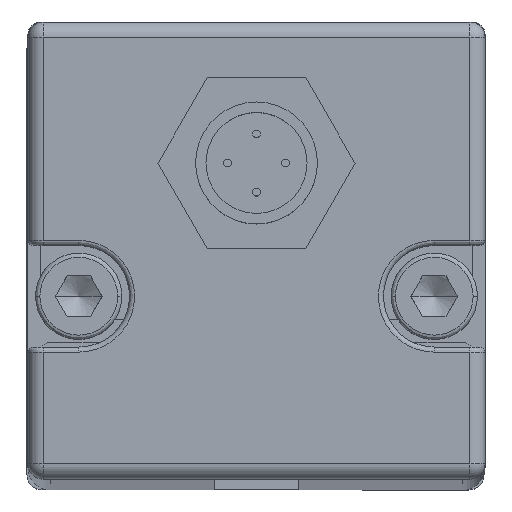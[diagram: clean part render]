
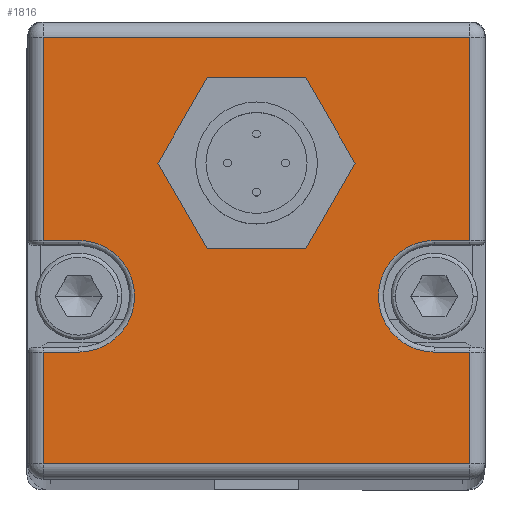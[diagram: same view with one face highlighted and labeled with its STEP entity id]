
A CAD part, top view. The second image highlights one B-rep face of the part: STEP entity #1816.
In plain terms, the highlighted planar face has unit normal (0, 0, 1) as drawn and (0, 1, 0) by its records, which use the part's own axes.
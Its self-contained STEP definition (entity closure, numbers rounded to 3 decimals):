
#12 = EDGE_LOOP ( 'NONE', ( #2973, #2975, #2976, #2977, #2978, #2979, #2980, #2981, #2982, #2983, #2984, #2985 ) ) ;
#157 = EDGE_LOOP ( 'NONE', ( #2974, #2963 ) ) ;
#345 = AXIS2_PLACEMENT_3D ( 'NONE', #9519, #9450, #9539 ) ;
#934 = EDGE_CURVE ( 'NONE', #7361, #7482, #5489, .T. ) ;
#1636 = FACE_OUTER_BOUND ( 'NONE', #12, .T. ) ;
#1655 = FACE_BOUND ( 'NONE', #157, .T. ) ;
#1816 = ADVANCED_FACE ( 'NONE', ( #1655, #1636 ), #2345, .T. ) ;
#2122 = AXIS2_PLACEMENT_3D ( 'NONE', #2524, #2356, #2358 ) ;
#2345 = PLANE ( 'NONE',  #2122 ) ;
#2356 = DIRECTION ( 'NONE',  ( 0., 1., 0. ) ) ;
#2358 = DIRECTION ( 'NONE',  ( 0., 0., 1. ) ) ;
#2524 = CARTESIAN_POINT ( 'NONE',  ( 22.5, 7., 22.5 ) ) ;
#2963 = ORIENTED_EDGE ( 'NONE', *, *, #934, .F. ) ;
#2973 = ORIENTED_EDGE ( 'NONE', *, *, #8046, .T. ) ;
#2974 = ORIENTED_EDGE ( 'NONE', *, *, #8017, .F. ) ;
#2975 = ORIENTED_EDGE ( 'NONE', *, *, #8075, .T. ) ;
#2976 = ORIENTED_EDGE ( 'NONE', *, *, #8080, .T. ) ;
#2977 = ORIENTED_EDGE ( 'NONE', *, *, #8073, .T. ) ;
#2978 = ORIENTED_EDGE ( 'NONE', *, *, #8088, .T. ) ;
#2979 = ORIENTED_EDGE ( 'NONE', *, *, #8043, .T. ) ;
#2980 = ORIENTED_EDGE ( 'NONE', *, *, #8059, .T. ) ;
#2981 = ORIENTED_EDGE ( 'NONE', *, *, #8056, .T. ) ;
#2982 = ORIENTED_EDGE ( 'NONE', *, *, #8070, .T. ) ;
#2983 = ORIENTED_EDGE ( 'NONE', *, *, #8072, .T. ) ;
#2984 = ORIENTED_EDGE ( 'NONE', *, *, #8050, .T. ) ;
#2985 = ORIENTED_EDGE ( 'NONE', *, *, #8069, .T. ) ;
#4005 = CARTESIAN_POINT ( 'NONE',  ( 0., 7., -15.1 ) ) ;
#4018 = CARTESIAN_POINT ( 'NONE',  ( -17.5, 7., -1. ) ) ;
#4055 = CARTESIAN_POINT ( 'NONE',  ( -21., 7., -1. ) ) ;
#4085 = CARTESIAN_POINT ( 'NONE',  ( 0., 7., -2.1 ) ) ;
#4091 = CARTESIAN_POINT ( 'NONE',  ( 17.5, 7., -1. ) ) ;
#4118 = CARTESIAN_POINT ( 'NONE',  ( -21., 7., 21. ) ) ;
#4134 = CARTESIAN_POINT ( 'NONE',  ( -21., 7., 10. ) ) ;
#4145 = CARTESIAN_POINT ( 'NONE',  ( 21., 7., -1. ) ) ;
#4325 = CARTESIAN_POINT ( 'NONE',  ( 21., 7., -21. ) ) ;
#4330 = CARTESIAN_POINT ( 'NONE',  ( 21., 7., 21. ) ) ;
#4350 = CARTESIAN_POINT ( 'NONE',  ( -21., 7., -21. ) ) ;
#4353 = CARTESIAN_POINT ( 'NONE',  ( -17.5, 7., 10. ) ) ;
#4358 = CARTESIAN_POINT ( 'NONE',  ( 17.5, 7., 10. ) ) ;
#4363 = CARTESIAN_POINT ( 'NONE',  ( 21., 7., 10. ) ) ;
#4370 = CARTESIAN_POINT ( 'NONE',  ( 0., 7., -8.6 ) ) ;
#4371 = DIRECTION ( 'NONE',  ( 0., 1., 0. ) ) ;
#4372 = DIRECTION ( 'NONE',  ( 0., 0., 1. ) ) ;
#4414 = CARTESIAN_POINT ( 'NONE',  ( 22.5, 7., -21. ) ) ;
#4432 = DIRECTION ( 'NONE',  ( -1., 0., 0. ) ) ;
#4438 = CARTESIAN_POINT ( 'NONE',  ( 21., 7., 9.5 ) ) ;
#4439 = DIRECTION ( 'NONE',  ( 0., 0., -1. ) ) ;
#4440 = CARTESIAN_POINT ( 'NONE',  ( 22.5, 7., -1. ) ) ;
#4447 = CARTESIAN_POINT ( 'NONE',  ( -21., 7., 22.5 ) ) ;
#4448 = DIRECTION ( 'NONE',  ( 0., 0., 1. ) ) ;
#4460 = DIRECTION ( 'NONE',  ( 1., 0., 0. ) ) ;
#4465 = CARTESIAN_POINT ( 'NONE',  ( -21., 7., 22.5 ) ) ;
#4466 = DIRECTION ( 'NONE',  ( 0., 0., 1. ) ) ;
#4482 = CARTESIAN_POINT ( 'NONE',  ( -17.5, 7., 4.5 ) ) ;
#4488 = CARTESIAN_POINT ( 'NONE',  ( 22.5, 7., 21. ) ) ;
#4489 = DIRECTION ( 'NONE',  ( 1., 0., 0. ) ) ;
#4491 = DIRECTION ( 'NONE',  ( 0., -1., 0. ) ) ;
#4492 = DIRECTION ( 'NONE',  ( 0., 0., 1. ) ) ;
#4495 = CARTESIAN_POINT ( 'NONE',  ( 22.5, 7., 10. ) ) ;
#4496 = DIRECTION ( 'NONE',  ( -1., 0., 0. ) ) ;
#4497 = CARTESIAN_POINT ( 'NONE',  ( 22.5, 7., -1. ) ) ;
#4498 = DIRECTION ( 'NONE',  ( 1., 0., 0. ) ) ;
#4502 = CARTESIAN_POINT ( 'NONE',  ( 22.5, 7., 10. ) ) ;
#4503 = DIRECTION ( 'NONE',  ( -1., 0., 0. ) ) ;
#4508 = CARTESIAN_POINT ( 'NONE',  ( 17.5, 7., 4.5 ) ) ;
#4515 = DIRECTION ( 'NONE',  ( 0., -1., 0. ) ) ;
#4516 = DIRECTION ( 'NONE',  ( 0., 0., 1. ) ) ;
#4534 = CARTESIAN_POINT ( 'NONE',  ( 21., 7., -22.5 ) ) ;
#4535 = DIRECTION ( 'NONE',  ( 0., 0., -1. ) ) ;
#5489 = CIRCLE ( 'NONE', #345, 6.5 ) ;
#5687 = AXIS2_PLACEMENT_3D ( 'NONE', #4370, #4371, #4372 ) ;
#5693 = AXIS2_PLACEMENT_3D ( 'NONE', #4482, #4491, #4492 ) ;
#5696 = AXIS2_PLACEMENT_3D ( 'NONE', #4508, #4515, #4516 ) ;
#5894 = CIRCLE ( 'NONE', #5687, 6.5 ) ;
#5930 = LINE ( 'NONE', #4414, #5934 ) ;
#5934 = VECTOR ( 'NONE', #4432, 1000. ) ;
#5935 = VECTOR ( 'NONE', #4439, 1000. ) ;
#5937 = LINE ( 'NONE', #4438, #5935 ) ;
#5948 = LINE ( 'NONE', #4447, #5949 ) ;
#5949 = VECTOR ( 'NONE', #4448, 1000. ) ;
#5952 = LINE ( 'NONE', #4440, #5958 ) ;
#5958 = VECTOR ( 'NONE', #4460, 1000. ) ;
#5959 = LINE ( 'NONE', #4502, #5985 ) ;
#5964 = LINE ( 'NONE', #4465, #5965 ) ;
#5965 = VECTOR ( 'NONE', #4466, 1000. ) ;
#5980 = LINE ( 'NONE', #4488, #5981 ) ;
#5981 = VECTOR ( 'NONE', #4489, 1000. ) ;
#5985 = VECTOR ( 'NONE', #4503, 1000. ) ;
#5986 = CIRCLE ( 'NONE', #5693, 5.5 ) ;
#5987 = LINE ( 'NONE', #4495, #5988 ) ;
#5988 = VECTOR ( 'NONE', #4496, 1000. ) ;
#5989 = LINE ( 'NONE', #4497, #5990 ) ;
#5990 = VECTOR ( 'NONE', #4498, 1000. ) ;
#6002 = CIRCLE ( 'NONE', #5696, 5.5 ) ;
#6012 = LINE ( 'NONE', #4534, #6013 ) ;
#6013 = VECTOR ( 'NONE', #4535, 1000. ) ;
#7361 = VERTEX_POINT ( 'NONE', #4005 ) ;
#7380 = VERTEX_POINT ( 'NONE', #4018 ) ;
#7434 = VERTEX_POINT ( 'NONE', #4055 ) ;
#7482 = VERTEX_POINT ( 'NONE', #4085 ) ;
#7489 = VERTEX_POINT ( 'NONE', #4091 ) ;
#7527 = VERTEX_POINT ( 'NONE', #4118 ) ;
#7545 = VERTEX_POINT ( 'NONE', #4134 ) ;
#7570 = VERTEX_POINT ( 'NONE', #4145 ) ;
#7874 = VERTEX_POINT ( 'NONE', #4325 ) ;
#7879 = VERTEX_POINT ( 'NONE', #4330 ) ;
#7899 = VERTEX_POINT ( 'NONE', #4350 ) ;
#7902 = VERTEX_POINT ( 'NONE', #4353 ) ;
#7907 = VERTEX_POINT ( 'NONE', #4358 ) ;
#7917 = VERTEX_POINT ( 'NONE', #4363 ) ;
#8017 = EDGE_CURVE ( 'NONE', #7482, #7361, #5894, .T. ) ;
#8043 = EDGE_CURVE ( 'NONE', #7874, #7899, #5930, .T. ) ;
#8046 = EDGE_CURVE ( 'NONE', #7879, #7917, #5937, .T. ) ;
#8050 = EDGE_CURVE ( 'NONE', #7545, #7527, #5948, .T. ) ;
#8056 = EDGE_CURVE ( 'NONE', #7434, #7380, #5952, .T. ) ;
#8059 = EDGE_CURVE ( 'NONE', #7899, #7434, #5964, .T. ) ;
#8069 = EDGE_CURVE ( 'NONE', #7527, #7879, #5980, .T. ) ;
#8070 = EDGE_CURVE ( 'NONE', #7380, #7902, #5986, .T. ) ;
#8072 = EDGE_CURVE ( 'NONE', #7902, #7545, #5987, .T. ) ;
#8073 = EDGE_CURVE ( 'NONE', #7489, #7570, #5989, .T. ) ;
#8075 = EDGE_CURVE ( 'NONE', #7917, #7907, #5959, .T. ) ;
#8080 = EDGE_CURVE ( 'NONE', #7907, #7489, #6002, .T. ) ;
#8088 = EDGE_CURVE ( 'NONE', #7570, #7874, #6012, .T. ) ;
#9450 = DIRECTION ( 'NONE',  ( 0., 1., 0. ) ) ;
#9519 = CARTESIAN_POINT ( 'NONE',  ( 0., 7., -8.6 ) ) ;
#9539 = DIRECTION ( 'NONE',  ( 0., 0., 1. ) ) ;
